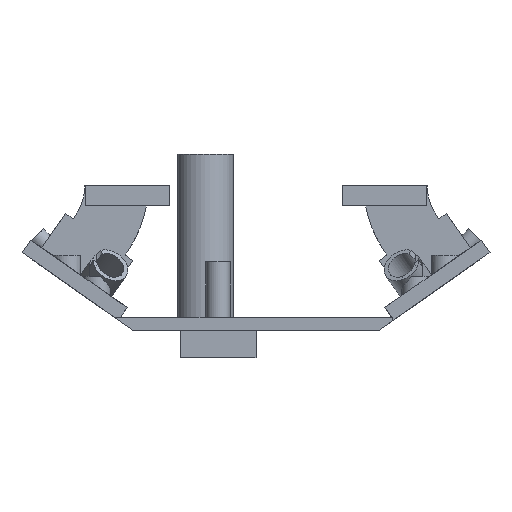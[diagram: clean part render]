
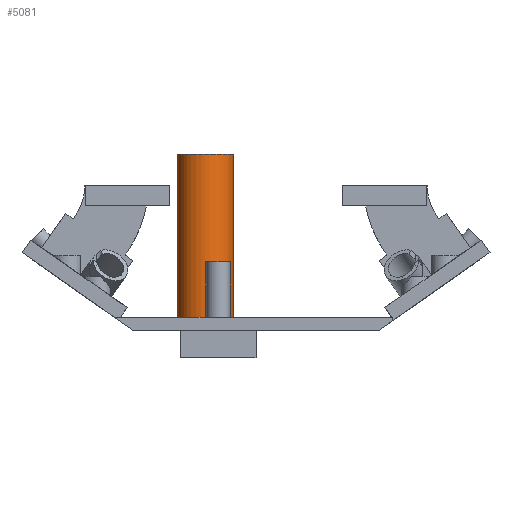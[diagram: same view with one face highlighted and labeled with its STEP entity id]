
A CAD part, left-side view. The second image highlights one B-rep face of the part: STEP entity #5081.
In plain terms, the highlighted cylindrical face has radius 22 mm (diameter 44 mm), a full revolution.
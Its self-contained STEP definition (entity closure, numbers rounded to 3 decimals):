
#476 = PLANE('',#477);
#477 = AXIS2_PLACEMENT_3D('',#478,#479,#480);
#478 = CARTESIAN_POINT('',(172.25,2.523,316.));
#479 = DIRECTION('',(0.,0.,1.));
#480 = DIRECTION('',(1.,0.,-0.));
#1276 = PLANE('',#1277);
#1277 = AXIS2_PLACEMENT_3D('',#1278,#1279,#1280);
#1278 = CARTESIAN_POINT('',(425.,40.,445.));
#1279 = DIRECTION('',(0.,0.,1.));
#1280 = DIRECTION('',(1.,0.,-0.));
#1420 = EDGE_CURVE('',#1421,#1421,#1423,.T.);
#1421 = VERTEX_POINT('',#1422);
#1422 = CARTESIAN_POINT('',(447.,40.,316.));
#1423 = SURFACE_CURVE('',#1424,(#1429,#1436),.PCURVE_S1.);
#1424 = CIRCLE('',#1425,22.);
#1425 = AXIS2_PLACEMENT_3D('',#1426,#1427,#1428);
#1426 = CARTESIAN_POINT('',(425.,40.,316.));
#1427 = DIRECTION('',(0.,0.,1.));
#1428 = DIRECTION('',(1.,0.,-0.));
#1429 = PCURVE('',#476,#1430);
#1430 = DEFINITIONAL_REPRESENTATION('',(#1431),#1435);
#1431 = CIRCLE('',#1432,22.);
#1432 = AXIS2_PLACEMENT_2D('',#1433,#1434);
#1433 = CARTESIAN_POINT('',(252.75,37.477));
#1434 = DIRECTION('',(1.,0.));
#1435 = ( GEOMETRIC_REPRESENTATION_CONTEXT(2) 
PARAMETRIC_REPRESENTATION_CONTEXT() REPRESENTATION_CONTEXT('2D SPACE',''
  ) );
#1436 = PCURVE('',#1437,#1442);
#1437 = CYLINDRICAL_SURFACE('',#1438,22.);
#1438 = AXIS2_PLACEMENT_3D('',#1439,#1440,#1441);
#1439 = CARTESIAN_POINT('',(425.,40.,306.));
#1440 = DIRECTION('',(0.,0.,1.));
#1441 = DIRECTION('',(1.,0.,-0.));
#1442 = DEFINITIONAL_REPRESENTATION('',(#1443),#1447);
#1443 = LINE('',#1444,#1445);
#1444 = CARTESIAN_POINT('',(0.,10.));
#1445 = VECTOR('',#1446,1.);
#1446 = DIRECTION('',(1.,0.));
#1447 = ( GEOMETRIC_REPRESENTATION_CONTEXT(2) 
PARAMETRIC_REPRESENTATION_CONTEXT() REPRESENTATION_CONTEXT('2D SPACE',''
  ) );
#4950 = EDGE_CURVE('',#4951,#4951,#4953,.T.);
#4951 = VERTEX_POINT('',#4952);
#4952 = CARTESIAN_POINT('',(447.,40.,445.));
#4953 = SURFACE_CURVE('',#4954,(#4959,#4966),.PCURVE_S1.);
#4954 = CIRCLE('',#4955,22.);
#4955 = AXIS2_PLACEMENT_3D('',#4956,#4957,#4958);
#4956 = CARTESIAN_POINT('',(425.,40.,445.));
#4957 = DIRECTION('',(0.,0.,1.));
#4958 = DIRECTION('',(1.,0.,-0.));
#4959 = PCURVE('',#1276,#4960);
#4960 = DEFINITIONAL_REPRESENTATION('',(#4961),#4965);
#4961 = CIRCLE('',#4962,22.);
#4962 = AXIS2_PLACEMENT_2D('',#4963,#4964);
#4963 = CARTESIAN_POINT('',(0.,0.));
#4964 = DIRECTION('',(1.,0.));
#4965 = ( GEOMETRIC_REPRESENTATION_CONTEXT(2) 
PARAMETRIC_REPRESENTATION_CONTEXT() REPRESENTATION_CONTEXT('2D SPACE',''
  ) );
#4966 = PCURVE('',#1437,#4967);
#4967 = DEFINITIONAL_REPRESENTATION('',(#4968),#4972);
#4968 = LINE('',#4969,#4970);
#4969 = CARTESIAN_POINT('',(0.,139.));
#4970 = VECTOR('',#4971,1.);
#4971 = DIRECTION('',(1.,0.));
#4972 = ( GEOMETRIC_REPRESENTATION_CONTEXT(2) 
PARAMETRIC_REPRESENTATION_CONTEXT() REPRESENTATION_CONTEXT('2D SPACE',''
  ) );
#5081 = ADVANCED_FACE('',(#5082),#1437,.T.);
#5082 = FACE_BOUND('',#5083,.T.);
#5083 = EDGE_LOOP('',(#5084,#5105,#5106,#5107));
#5084 = ORIENTED_EDGE('',*,*,#5085,.T.);
#5085 = EDGE_CURVE('',#1421,#4951,#5086,.T.);
#5086 = SEAM_CURVE('',#5087,(#5091,#5098),.PCURVE_S1.);
#5087 = LINE('',#5088,#5089);
#5088 = CARTESIAN_POINT('',(447.,40.,306.));
#5089 = VECTOR('',#5090,1.);
#5090 = DIRECTION('',(0.,0.,1.));
#5091 = PCURVE('',#1437,#5092);
#5092 = DEFINITIONAL_REPRESENTATION('',(#5093),#5097);
#5093 = LINE('',#5094,#5095);
#5094 = CARTESIAN_POINT('',(6.283,-0.));
#5095 = VECTOR('',#5096,1.);
#5096 = DIRECTION('',(0.,1.));
#5097 = ( GEOMETRIC_REPRESENTATION_CONTEXT(2) 
PARAMETRIC_REPRESENTATION_CONTEXT() REPRESENTATION_CONTEXT('2D SPACE',''
  ) );
#5098 = PCURVE('',#1437,#5099);
#5099 = DEFINITIONAL_REPRESENTATION('',(#5100),#5104);
#5100 = LINE('',#5101,#5102);
#5101 = CARTESIAN_POINT('',(0.,-0.));
#5102 = VECTOR('',#5103,1.);
#5103 = DIRECTION('',(0.,1.));
#5104 = ( GEOMETRIC_REPRESENTATION_CONTEXT(2) 
PARAMETRIC_REPRESENTATION_CONTEXT() REPRESENTATION_CONTEXT('2D SPACE',''
  ) );
#5105 = ORIENTED_EDGE('',*,*,#4950,.F.);
#5106 = ORIENTED_EDGE('',*,*,#5085,.F.);
#5107 = ORIENTED_EDGE('',*,*,#1420,.T.);
